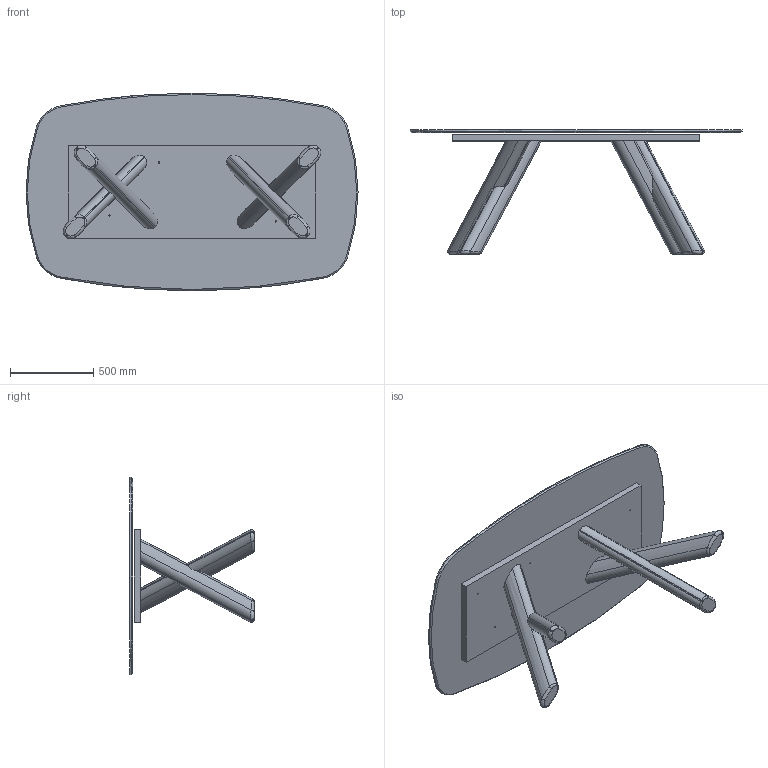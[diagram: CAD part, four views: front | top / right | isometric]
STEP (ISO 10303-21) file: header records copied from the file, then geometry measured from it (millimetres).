
FILE_DESCRIPTION (( 'STEP AP203' ), '1' );
FILE_NAME ('CN21C_CANOVA_top ceramica 200x119x75h sag.STEP', '2025-04-15T07:03:58', ( '' ), ( '' ), 'SwSTEP 2.0', 'SolidWorks 2022', '' );
FILE_SCHEMA (( 'CONFIG_CONTROL_DESIGN' ));
Length unit declared in the file: millimetre
Products named in the file (5): CAMP_00058-00-Gamba in legno Interna_leggero; CAMP_00056-00-Assieme Basamento con gambe in legno incrociate_leggero; CAMP_00057-00-Gamba in legno Esterna_leggero; PIANI_modello 3D x web_Ceramica 200x119 sag; CN21C_CANOVA_top ceramica 200x119x75h sag
Assembly tree (5 placements, depth 3):
  CN21C_CANOVA_top ceramica 200x119x75h sag
    PIANI_modello 3D x web_Ceramica 200x119 sag
    CAMP_00056-00-Assieme Basamento con gambe in legno incrociate_leggero  x2
      CAMP_00057-00-Gamba in legno Esterna_leggero
      CAMP_00058-00-Gamba in legno Interna_leggero
Bounding box: 2000 x 748 x 1190 mm (x, y, z)
Volume: 105694118.9 mm3; surface area: 7655562.6 mm2
Topology: 6 solids, 6 shells, 174 faces, 420 edges, 264 vertices
Faces by surface type: cylinder 99, bspline 36, plane 22, cone 17
Entity records: 4626 total; most frequent: CARTESIAN_POINT 1640, ORIENTED_EDGE 538, DIRECTION 495, EDGE_CURVE 269, AXIS2_PLACEMENT_3D 203, VERTEX_POINT 170, EDGE_LOOP 133, FACE_OUTER_BOUND 110
